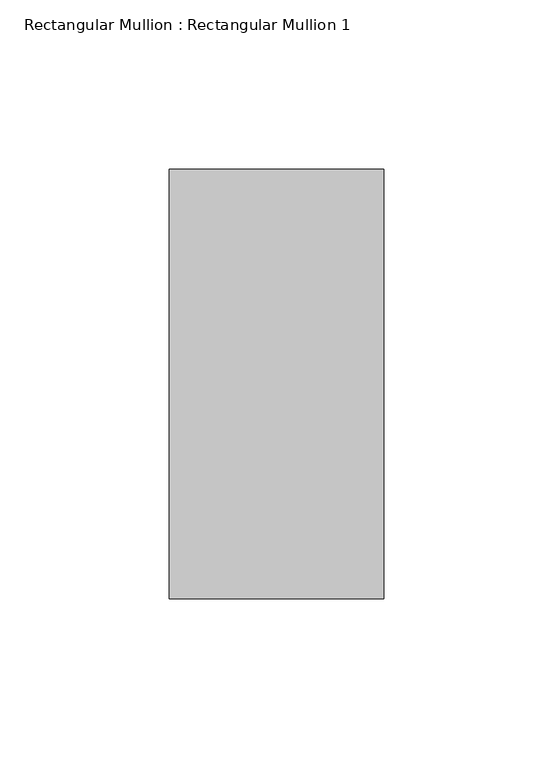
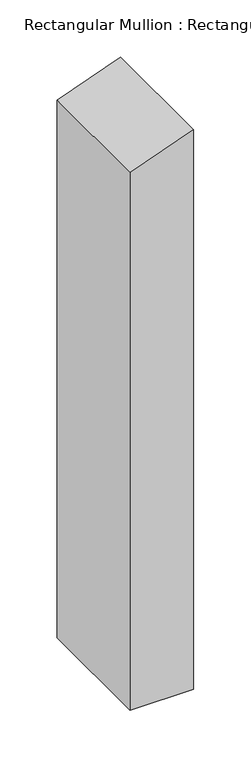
"""IFC4 building model written with IfcOpenShell, lengths in millimetres: member geometry, Rectangular Mullion : Rectangular Mullion 1."""

import ifcopenshell
import ifcopenshell.guid

model = None  # the IFC model being written
_history = None  # IfcOwnerHistory: only IFC2X3 demands one
_inside = {}  # id of a spatial element -> (the spatial element, [elements in it])
_under = {}  # id of a project, library or spatial element -> (it, [spatial elements below it])
_declared = {}  # id of a project -> (the project, [libraries it declares])
_typed = {}  # id of a type object -> (the type object, [elements of that type])
_made_of = {}  # id of a material, layer set ... -> (it, [elements and type objects made of it])


def new_model(schema):
    """Start an empty IFC model of exactly this schema.

    Asked for "IFC4X3", IfcOpenShell would pick the latest addendum, in which some entities
    have other attributes; the version numbers below select the first issue.
    IFC2X3 requires an IfcOwnerHistory on every rooted entity: one is made here for all.
    """
    global model, _history
    if schema == "IFC4X3":
        model = ifcopenshell.file(schema_version=(4, 3, 0, 0))
    else:
        model = ifcopenshell.file(schema=schema)
    _inside.clear()
    _under.clear()
    _declared.clear()
    _typed.clear()
    _made_of.clear()
    _history = None
    if model.schema == "IFC2X3":
        org = make("IfcOrganization", Name="unknown")
        user = make(
            "IfcPersonAndOrganization",
            ThePerson=make("IfcPerson", FamilyName="unknown"),
            TheOrganization=org,
        )
        app = make(
            "IfcApplication",
            ApplicationDeveloper=org,
            Version="unknown",
            ApplicationFullName="unknown",
            ApplicationIdentifier="unknown",
        )
        _history = make(
            "IfcOwnerHistory",
            OwningUser=user,
            OwningApplication=app,
            ChangeAction="ADDED",
            CreationDate=0,
        )
    return model


def make(cls, **values):
    """One entity of the class cls with the attributes given. An attribute that is None is left unset."""
    return model.create_entity(
        cls, **{name: value for name, value in values.items() if value is not None}
    )


def rooted(cls, **values):
    """An entity with a GlobalId (a new one), such as an element, a storey or a relation."""
    return make(cls, GlobalId=ifcopenshell.guid.new(), OwnerHistory=_history, **values)


def si_unit(unit_type, name, prefix=None):
    """IfcSIUnit, for example si_unit("LENGTHUNIT", "METRE", prefix="MILLI")."""
    return make("IfcSIUnit", UnitType=unit_type, Prefix=prefix, Name=name)


def assignment(units):
    """IfcUnitAssignment: the units of a project."""
    return None if units is None else make("IfcUnitAssignment", Units=units)


def point(xyz):
    """IfcCartesianPoint."""
    return None if xyz is None else make("IfcCartesianPoint", Coordinates=xyz)


def direction(xyz):
    """IfcDirection."""
    return None if xyz is None else make("IfcDirection", DirectionRatios=xyz)


def frame(location, z_axis=None, x_axis=None):
    """IfcAxis2Placement3D, a coordinate frame: its origin and axes. An axis left out is left unset."""
    return make(
        "IfcAxis2Placement3D",
        Location=point(location),
        Axis=direction(z_axis),
        RefDirection=direction(x_axis),
    )


def origin():
    """The frame at (0, 0, 0) with its axes left unset."""
    return frame((0.0, 0.0, 0.0))


def place(relative_to, where):
    """IfcLocalPlacement: puts the frame where relative to a parent placement (None: the world)."""
    return make(
        "IfcLocalPlacement", PlacementRelTo=relative_to, RelativePlacement=where
    )


def context(
    kind, dimensions, precision=None, world=None, true_north=None, identifier=None
):
    """IfcGeometricRepresentationContext, for example the 3D "Model" context."""
    return make(
        "IfcGeometricRepresentationContext",
        ContextIdentifier=identifier,
        ContextType=kind,
        CoordinateSpaceDimension=dimensions,
        Precision=precision,
        WorldCoordinateSystem=world,
        TrueNorth=true_north,
    )


def project(units=None, contexts=None):
    """IfcProject with its units and contexts."""
    return rooted(
        "IfcProject",
        Name="project",
        RepresentationContexts=contexts,
        UnitsInContext=assignment(units),
    )


def spatial(cls, under=None, at=None, **own):
    """A site, building, storey or space (cls), placed at a placement, below another one or the project."""
    s = rooted(cls, ObjectPlacement=at, **own)
    if under is not None:
        _under.setdefault(under.id(), (under, []))[1].append(s)
    return s


def polyline(points):
    """IfcPolyline through the points."""
    return make("IfcPolyline", Points=[point(p) for p in points])


def outline(outer, holes=None, kind="AREA"):
    """IfcArbitraryClosedProfileDef: a profile drawn as a closed curve; with holes, ...WithVoids."""
    if holes is None:
        return make("IfcArbitraryClosedProfileDef", ProfileType=kind, OuterCurve=outer)
    return make(
        "IfcArbitraryProfileDefWithVoids",
        ProfileType=kind,
        OuterCurve=outer,
        InnerCurves=holes,
    )


def extrude(swept, where, along, depth):
    """IfcExtrudedAreaSolid: the profile swept, set in the frame where, extruded along a direction by depth."""
    return make(
        "IfcExtrudedAreaSolid",
        SweptArea=swept,
        Position=where,
        ExtrudedDirection=direction(along),
        Depth=depth,
    )


def shape(context_of_items, identifier, shape_type, items):
    """IfcShapeRepresentation: the items that make up one representation, for example the "Body"."""
    return make(
        "IfcShapeRepresentation",
        ContextOfItems=context_of_items,
        RepresentationIdentifier=identifier,
        RepresentationType=shape_type,
        Items=items,
    )


def source(mapping_origin, context_of_items, identifier, shape_type, items):
    """IfcRepresentationMap: a shape defined once, which mapped items show again and again."""
    return make(
        "IfcRepresentationMap",
        MappingOrigin=mapping_origin,
        MappedRepresentation=shape(context_of_items, identifier, shape_type, items),
    )


def transform(
    local_origin,
    x_axis=None,
    y_axis=None,
    z_axis=None,
    scale=None,
    scale2=None,
    scale3=None,
    uniform=True,
):
    """IfcCartesianTransformationOperator3D, or its non-uniform kind. x_axis, y_axis, z_axis: its Axis1, 2, 3."""
    if uniform:
        return make(
            "IfcCartesianTransformationOperator3D",
            Axis1=direction(x_axis),
            Axis2=direction(y_axis),
            LocalOrigin=point(local_origin),
            Scale=scale,
            Axis3=direction(z_axis),
        )
    return make(
        "IfcCartesianTransformationOperator3DnonUniform",
        Axis1=direction(x_axis),
        Axis2=direction(y_axis),
        LocalOrigin=point(local_origin),
        Scale=scale,
        Axis3=direction(z_axis),
        Scale2=scale2,
        Scale3=scale3,
    )


def mapped(mapping_source, mapping_target):
    """IfcMappedItem: shows the shape of a source again, moved by a transform."""
    return make(
        "IfcMappedItem", MappingSource=mapping_source, MappingTarget=mapping_target
    )


def made_of(thing, what):
    """Note that an element or type object is made of a material, layer set ...; save() writes the relation."""
    if what is not None:
        _made_of.setdefault(what.id(), (what, []))[1].append(thing)
    return thing


def element(
    cls,
    number,
    at=None,
    inside=None,
    cuts=None,
    type_object=None,
    material=None,
    context=None,
    identifier="Body",
    shape_type=None,
    held_by="IfcProductDefinitionShape",
    body=None,
    shapes=None,
    **own,
):
    """One element of the class cls, such as IfcWall. Its Tag is "e" and its number.

    at: its placement. inside: the storey or other place that contains it. cuts: it is an
    opening in that element (IfcRelVoidsElement). A single representation is given by context,
    identifier, shape_type and body (its items); several are given by shapes. held_by: the class
    of the entity that holds the representations. save() writes the other relations.
    """
    e = rooted(cls, Tag="e%d" % number, ObjectPlacement=at, **own)
    if body is not None:
        shapes = [shape(context, identifier, shape_type, body)]
    if shapes is not None:
        e.Representation = make(held_by, Representations=shapes)
    if inside is not None:
        _inside.setdefault(inside.id(), (inside, []))[1].append(e)
    if cuts is not None:
        rooted(
            "IfcRelVoidsElement", RelatingBuildingElement=cuts, RelatedOpeningElement=e
        )
    if type_object is not None:
        _typed.setdefault(type_object.id(), (type_object, []))[1].append(e)
    return made_of(e, material)


def aggregate(whole, parts):
    """IfcRelAggregates: a whole, such as a stair, and the parts it consists of."""
    return rooted("IfcRelAggregates", RelatingObject=whole, RelatedObjects=parts)


def save(model, path):
    """Write the relations noted so far, then the file.

    IfcRelAggregates (storeys below a building ...), IfcRelContainedInSpatialStructure (elements
    in a storey), IfcRelDefinesByType, IfcRelAssociatesMaterial and IfcRelDeclares: one each for
    every whole, place, type object, material and project.
    """
    for whole, parts in _under.values():
        aggregate(whole, parts)
    for where, things in _inside.values():
        rooted(
            "IfcRelContainedInSpatialStructure",
            RelatedElements=things,
            RelatingStructure=where,
        )
    for kind, things in _typed.values():
        rooted("IfcRelDefinesByType", RelatedObjects=things, RelatingType=kind)
    for what, things in _made_of.values():
        rooted("IfcRelAssociatesMaterial", RelatedObjects=things, RelatingMaterial=what)
    for by, libraries in _declared.values():
        rooted("IfcRelDeclares", RelatingContext=by, RelatedDefinitions=libraries)
    model.write(path)


def rectangular_mullion_rectangular_mullion_1_92d3ccfa(model_context):
    return source(origin(), model_context, "Body", "SweptSolid", [
        extrude(outline(polyline([(0.0, 0.0), (-23.1121099, -63.5), (-594.7894541, -63.5), (-594.7894541, 0.0), (0.0, 0.0)])), frame((0.0, -63.5, 0.0), z_axis=(0.0, 1.0, 0.0), x_axis=(0.0, 0.0, 1.0)), (0.0, 0.0, 1.0), 127.0),
    ])


if __name__ == "__main__":
    model = new_model("IFC4")
    model_context = context("Model", 3, world=origin())
    ifc_project = project(units=[si_unit("LENGTHUNIT", "METRE", prefix="MILLI")], contexts=[model_context])
    site = spatial("IfcSite", under=ifc_project)
    building = spatial("IfcBuilding", under=site)
    placement = place(None, origin())
    rectangular_mullion_rectangular_mullion_1_shape = rectangular_mullion_rectangular_mullion_1_92d3ccfa(model_context)
    element("IfcMember", 1, ObjectType="Rectangular Mullion : Rectangular Mullion 1", at=placement, inside=building, context=model_context, shape_type="MappedRepresentation", body=[
        mapped(rectangular_mullion_rectangular_mullion_1_shape, transform((0.0, 0.0, 0.0), x_axis=(1.0, 0.0, 0.0), y_axis=(0.0, 1.0, 0.0), z_axis=(0.0, 0.0, 1.0))),
    ])
    save(model, "model.ifc")
